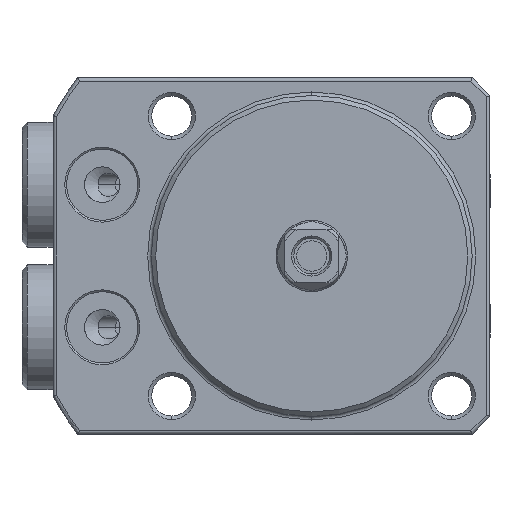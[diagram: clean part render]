
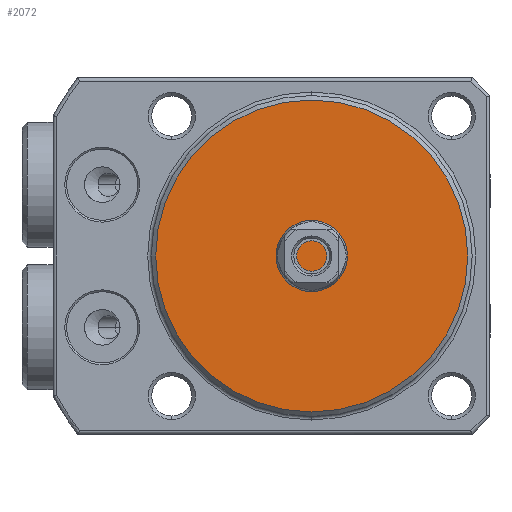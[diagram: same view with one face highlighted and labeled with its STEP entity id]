
A CAD part, front view. The second image highlights one B-rep face of the part: STEP entity #2072.
In plain terms, the highlighted planar face has unit normal (0, -1, 0).
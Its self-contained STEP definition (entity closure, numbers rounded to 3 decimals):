
#1724=PLANE('',#7485);
#2072=ADVANCED_FACE('',(#2503),#1724,.F.);
#2503=FACE_OUTER_BOUND('',#2892,.T.);
#2892=EDGE_LOOP('',(#5148));
#5148=ORIENTED_EDGE('',*,*,#6455,.T.);
#5647=VERTEX_POINT('',#12484);
#6455=EDGE_CURVE('',#5647,#5647,#6805,.T.);
#6805=CIRCLE('',#7484,17.5);
#7484=AXIS2_PLACEMENT_3D('',#12483,#9179,#9180);
#7485=AXIS2_PLACEMENT_3D('',#12485,#9181,#9182);
#9179=DIRECTION('',(0.,-1.,0.));
#9180=DIRECTION('',(0.,0.,1.));
#9181=DIRECTION('',(0.,1.,0.));
#9182=DIRECTION('',(0.,0.,-1.));
#12483=CARTESIAN_POINT('',(0.,-6.,0.));
#12484=CARTESIAN_POINT('',(0.,-6.,17.5));
#12485=CARTESIAN_POINT('',(11.75,-6.,0.));
